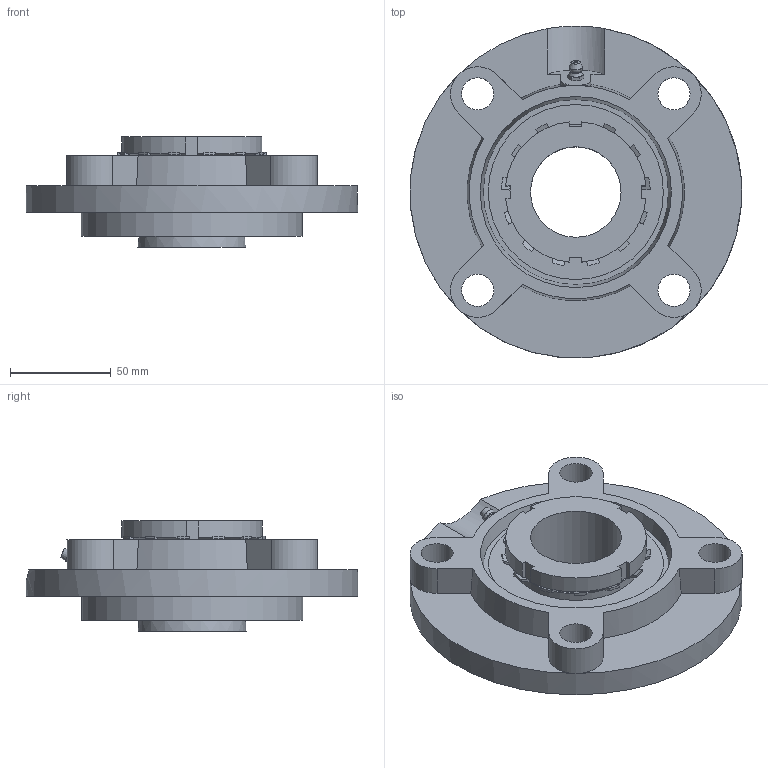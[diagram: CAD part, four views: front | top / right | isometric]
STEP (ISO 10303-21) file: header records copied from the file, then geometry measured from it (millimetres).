
FILE_DESCRIPTION((''),'2;1');
FILE_NAME('\\Ts-tgl068\j-cad-d-base\00.3DCADデータ作成フォルダ\02.フランジ形\UKFC200\UKFC210+H.stp','2014-11-20T16:42:45',('btec_1106_2'),(''),'Autodesk Inventor 2012','Autodesk Inventor 2012','');
FILE_SCHEMA(('AUTOMOTIVE_DESIGN { 1 0 10303 214 1 1 1 1 }'));
Length unit declared in the file: millimetre
Products named in the file (4): UKFC200+H; FC210; UK210; GU1
Assembly tree (3 placements, depth 2):
  UKFC200+H
    FC210
    UK210
    GU1
Bounding box: 164.81 x 164.87 x 55 mm (x, y, z)
Volume: 430981.2 mm3; surface area: 96830.9 mm2
Topology: 3 solids, 3 shells, 182 faces, 482 edges, 313 vertices
Faces by surface type: plane 79, cone 50, cylinder 45, sphere 4, bspline 2, torus 2
Full cylindrical faces by diameter (mm): 5.359 x1, 6.35 x1, 16 x4, 45 x1, 63 x2, 110 x1, 165 x1
Entity records: 5606 total; most frequent: CARTESIAN_POINT 1313, ORIENTED_EDGE 904, DIRECTION 853, EDGE_CURVE 452, AXIS2_PLACEMENT_3D 348, VERTEX_POINT 302, EDGE_LOOP 225, FACE_OUTER_BOUND 182
